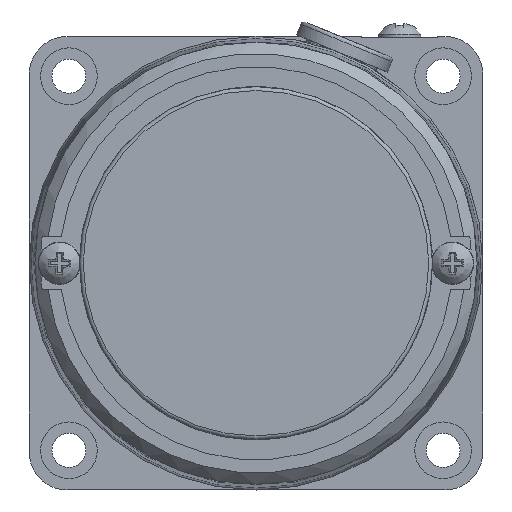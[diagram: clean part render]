
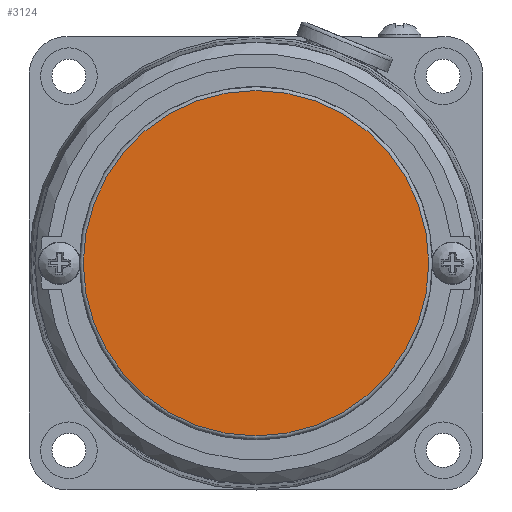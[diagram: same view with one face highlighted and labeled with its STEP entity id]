
A CAD part, left-side view. The second image highlights one B-rep face of the part: STEP entity #3124.
In plain terms, the highlighted planar face has unit normal (-1, 0, 0).
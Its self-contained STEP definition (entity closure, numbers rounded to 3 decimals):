
#235=CIRCLE('',#3342,22.85);
#384=FACE_OUTER_BOUND('',#571,.T.);
#571=EDGE_LOOP('',(#2216));
#1329=VERTEX_POINT('',#5157);
#1664=EDGE_CURVE('',#1329,#1329,#235,.T.);
#2216=ORIENTED_EDGE('',*,*,#1664,.F.);
#2826=PLANE('',#3341);
#3124=ADVANCED_FACE('',(#384),#2826,.T.);
#3341=AXIS2_PLACEMENT_3D('',#5156,#3830,#3831);
#3342=AXIS2_PLACEMENT_3D('',#5158,#3832,#3833);
#3830=DIRECTION('center_axis',(-1.,0.,0.));
#3831=DIRECTION('ref_axis',(0.,-1.,0.));
#3832=DIRECTION('center_axis',(1.,0.,0.));
#3833=DIRECTION('ref_axis',(0.,0.,-1.));
#5156=CARTESIAN_POINT('Origin',(-11.5,0.,19.175));
#5157=CARTESIAN_POINT('',(-11.5,0.,22.85));
#5158=CARTESIAN_POINT('Origin',(-11.5,0.,0.));
